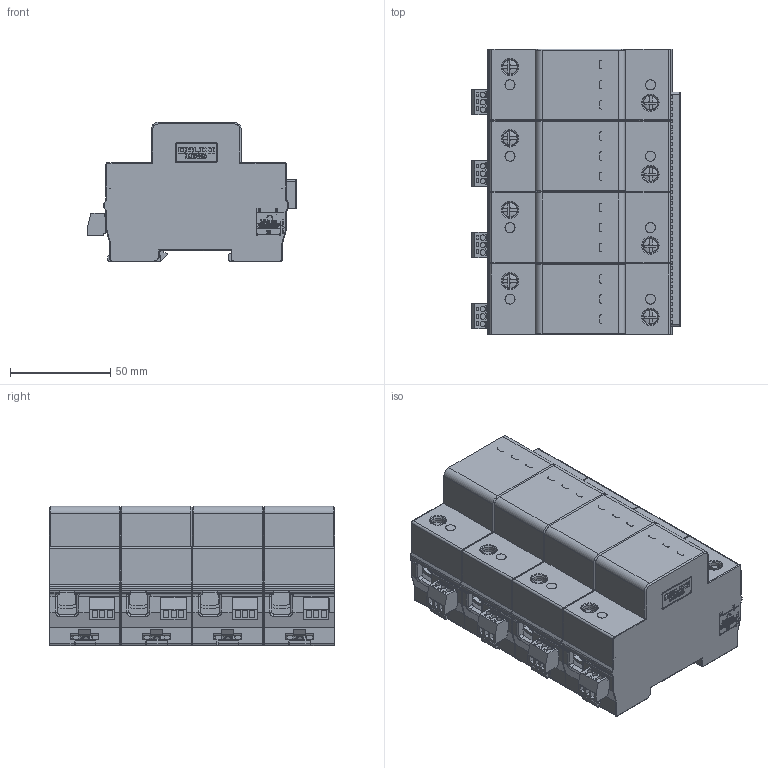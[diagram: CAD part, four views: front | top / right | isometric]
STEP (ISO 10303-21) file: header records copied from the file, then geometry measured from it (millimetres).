
FILE_DESCRIPTION((''),'2;1');
FILE_NAME('2207002700_SW00011','2023-03-16T',('linxiao.guan'),(''),'PRO/ENGINEER BY PARAMETRIC TECHNOLOGY CORPORATION, 2015440','PRO/ENGINEER BY PARAMETRIC TECHNOLOGY CORPORATION, 2015440','');
FILE_SCHEMA(('CONFIG_CONTROL_DESIGN'));
Products named in the file (1): 2207002700_SW00011
Bounding box: 103.8 x 142.4 x 69.4 mm (x, y, z)
Volume: 235473.6 mm3; surface area: 217945.5 mm2
Topology: 1 solids, 1 shells, 5902 faces, 16578 edges, 10744 vertices
Faces by surface type: plane 4441, cylinder 1023, torus 154, cone 148, bspline 104, sphere 32
Entity records: 233124 total; most frequent: CARTESIAN_POINT 79685, ORIENTED_EDGE 33156, DIRECTION 30088, EDGE_CURVE 16578, VECTOR 13250, LINE 13250, VERTEX_POINT 10744, AXIS2_PLACEMENT_3D 8419
